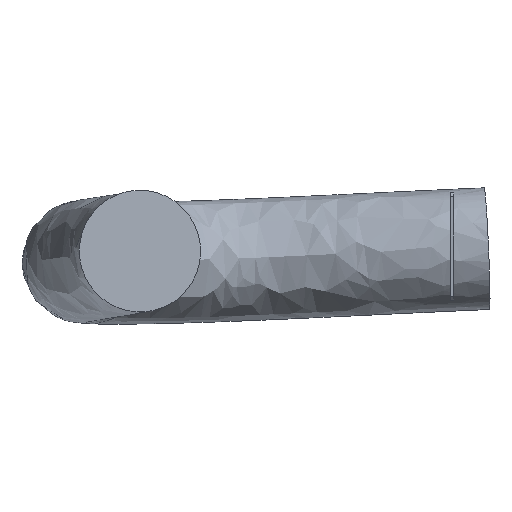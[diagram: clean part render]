
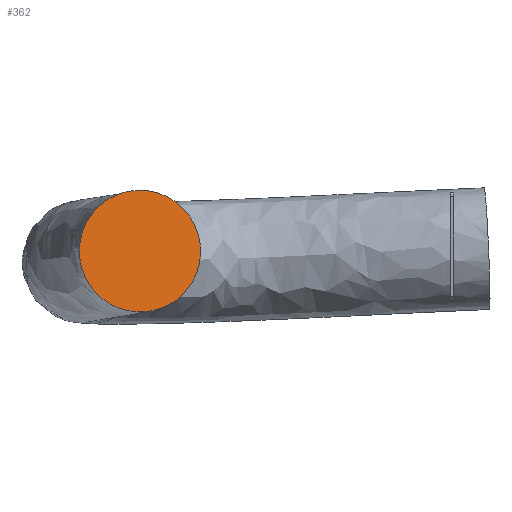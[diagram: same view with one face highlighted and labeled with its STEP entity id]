
A CAD part, left-side view. The second image highlights one B-rep face of the part: STEP entity #362.
In plain terms, the highlighted planar face has unit normal (-0.995, -0.092, 0.033).
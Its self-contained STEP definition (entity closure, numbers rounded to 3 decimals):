
#8 = CARTESIAN_POINT ( 'NONE',  ( 1466.991, 302.303, 2217.118 ) ) ;
#9 = CARTESIAN_POINT ( 'NONE',  ( 1474.496, 222.727, 2220.472 ) ) ;
#21 = CARTESIAN_POINT ( 'NONE',  ( 1469.276, 305.886, 2297.005 ) ) ;
#28 = CARTESIAN_POINT ( 'NONE',  ( 1466.991, 302.303, 2217.118 ) ) ;
#43 = CARTESIAN_POINT ( 'NONE',  ( 1469.276, 305.886, 2297.005 ) ) ;
#48 = CARTESIAN_POINT ( 'NONE',  ( 1476.781, 226.31, 2300.359 ) ) ;
#56 = CARTESIAN_POINT ( 'NONE',  ( 1466.991, 302.303, 2217.118 ) ) ;
#61 = CARTESIAN_POINT ( 'NONE',  ( 1459.486, 381.88, 2213.763 ) ) ;
#62 = CARTESIAN_POINT ( 'NONE',  ( 1461.771, 385.463, 2293.65 ) ) ;
#87 = CARTESIAN_POINT ( 'NONE',  ( 1469.276, 305.886, 2297.005 ) ) ;
#164 = DIRECTION ( 'NONE',  ( -0.029, -0.045, -0.999 ) ) ;
#165 = DIRECTION ( 'NONE',  ( 0.995, 0.092, -0.033 ) ) ;
#167 = PLANE ( 'NONE',  #420 ) ;
#177 = CARTESIAN_POINT ( 'NONE',  ( 1466.991, 302.303, 2217.118 ) ) ;
#362 = ADVANCED_FACE ( 'NONE', ( #541 ), #167, .F. ) ;
#382 = EDGE_CURVE ( 'NONE', #456, #596, #439, .T. ) ;
#385 = EDGE_CURVE ( 'NONE', #456, #596, #440, .T. ) ;
#420 = AXIS2_PLACEMENT_3D ( 'NONE', #177, #165, #164 ) ;
#439 =( BOUNDED_CURVE ( )  B_SPLINE_CURVE ( 3, ( #87, #62, #61, #56 ),
 .UNSPECIFIED., .F., .F. ) 
 B_SPLINE_CURVE_WITH_KNOTS ( ( 4, 4 ),
 ( 0., 0.125 ),
 .UNSPECIFIED. ) 
 CURVE ( )  GEOMETRIC_REPRESENTATION_ITEM ( )  RATIONAL_B_SPLINE_CURVE ( ( 1., 0.333, 0.333, 1. ) ) 
 REPRESENTATION_ITEM ( '' )  );
#440 =( BOUNDED_CURVE ( )  B_SPLINE_CURVE ( 3, ( #21, #48, #9, #8 ),
 .UNSPECIFIED., .F., .F. ) 
 B_SPLINE_CURVE_WITH_KNOTS ( ( 4, 4 ),
 ( 0., 0.125 ),
 .UNSPECIFIED. ) 
 CURVE ( )  GEOMETRIC_REPRESENTATION_ITEM ( )  RATIONAL_B_SPLINE_CURVE ( ( 1., 0.333, 0.333, 1. ) ) 
 REPRESENTATION_ITEM ( '' )  );
#456 = VERTEX_POINT ( 'NONE', #43 ) ;
#541 = FACE_OUTER_BOUND ( 'NONE', #613, .T. ) ;
#594 = ORIENTED_EDGE ( 'NONE', *, *, #385, .F. ) ;
#596 = VERTEX_POINT ( 'NONE', #28 ) ;
#604 = ORIENTED_EDGE ( 'NONE', *, *, #382, .T. ) ;
#613 = EDGE_LOOP ( 'NONE', ( #604, #594 ) ) ;
